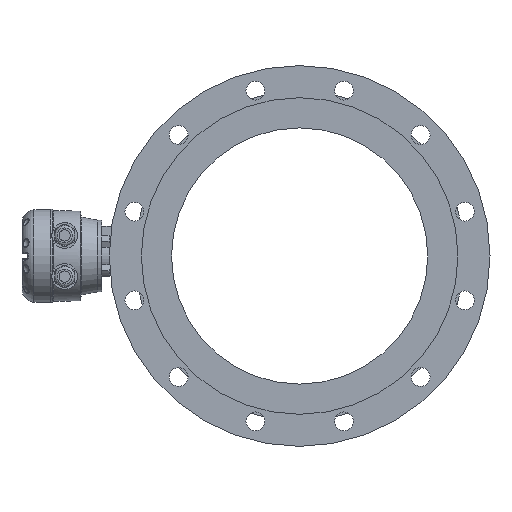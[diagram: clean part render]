
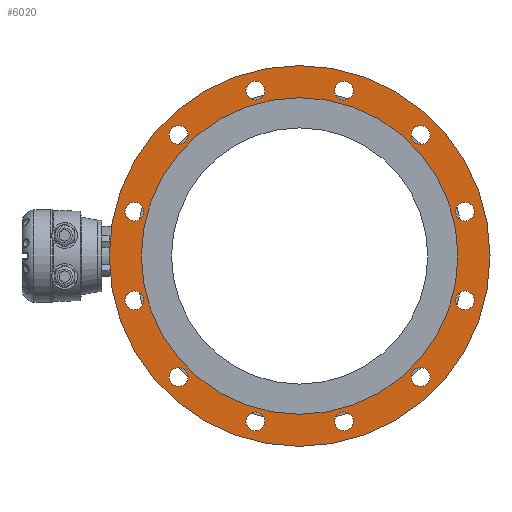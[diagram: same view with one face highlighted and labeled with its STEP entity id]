
A CAD part, left-side view. The second image highlights one B-rep face of the part: STEP entity #6020.
In plain terms, the highlighted planar face has unit normal (-1, 0, 0).
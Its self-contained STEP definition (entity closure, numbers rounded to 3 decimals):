
#39 = DIRECTION ( 'NONE',  ( 0., 0., 1. ) ) ;
#41 = DIRECTION ( 'NONE',  ( -1., 0., 0. ) ) ;
#42 = CARTESIAN_POINT ( 'NONE',  ( -238.805, -366.438, 130.879 ) ) ;
#1786 = EDGE_CURVE ( 'NONE', #5585, #5585, #9009, .T. ) ;
#1789 = EDGE_CURVE ( 'NONE', #5587, #5587, #9015, .T. ) ;
#1796 = EDGE_CURVE ( 'NONE', #5591, #5591, #9022, .T. ) ;
#1797 = EDGE_CURVE ( 'NONE', #5593, #5593, #9024, .T. ) ;
#1805 = EDGE_CURVE ( 'NONE', #5599, #5599, #9036, .T. ) ;
#1819 = EDGE_CURVE ( 'NONE', #5607, #5607, #9057, .T. ) ;
#1821 = EDGE_CURVE ( 'NONE', #5609, #5609, #9061, .T. ) ;
#1835 = EDGE_CURVE ( 'NONE', #5615, #5615, #9087, .T. ) ;
#1838 = EDGE_CURVE ( 'NONE', #5617, #5617, #9092, .T. ) ;
#1855 = EDGE_CURVE ( 'NONE', #5623, #5623, #9122, .T. ) ;
#1857 = EDGE_CURVE ( 'NONE', #5625, #5625, #9125, .T. ) ;
#1869 = EDGE_CURVE ( 'NONE', #5633, #5633, #9146, .T. ) ;
#1886 = EDGE_CURVE ( 'NONE', #5643, #5643, #9174, .T. ) ;
#1918 = EDGE_CURVE ( 'NONE', #5691, #5691, #9206, .T. ) ;
#1966 = AXIS2_PLACEMENT_3D ( 'NONE', #6627, #6620, #6619 ) ;
#1973 = AXIS2_PLACEMENT_3D ( 'NONE', #6614, #6613, #6612 ) ;
#1978 = AXIS2_PLACEMENT_3D ( 'NONE', #6601, #6591, #6590 ) ;
#1979 = AXIS2_PLACEMENT_3D ( 'NONE', #6595, #6589, #6588 ) ;
#1980 = AXIS2_PLACEMENT_3D ( 'NONE', #6572, #6569, #6568 ) ;
#1985 = AXIS2_PLACEMENT_3D ( 'NONE', #6516, #6515, #6514 ) ;
#1986 = AXIS2_PLACEMENT_3D ( 'NONE', #6532, #6520, #6519 ) ;
#1988 = AXIS2_PLACEMENT_3D ( 'NONE', #6366, #6364, #6363 ) ;
#1990 = AXIS2_PLACEMENT_3D ( 'NONE', #6354, #6347, #6346 ) ;
#1992 = AXIS2_PLACEMENT_3D ( 'NONE', #2540, #2524, #2523 ) ;
#1993 = AXIS2_PLACEMENT_3D ( 'NONE', #2518, #2517, #2516 ) ;
#1994 = AXIS2_PLACEMENT_3D ( 'NONE', #42, #41, #39 ) ;
#2002 = AXIS2_PLACEMENT_3D ( 'NONE', #9927, #9928, #9929 ) ;
#2004 = AXIS2_PLACEMENT_3D ( 'NONE', #10042, #10044, #10045 ) ;
#2115 = AXIS2_PLACEMENT_3D ( 'NONE', #11032, #11034, #11036 ) ;
#2516 = DIRECTION ( 'NONE',  ( 0., 0., 1. ) ) ;
#2517 = DIRECTION ( 'NONE',  ( -1., 0., 0. ) ) ;
#2518 = CARTESIAN_POINT ( 'NONE',  ( -238.805, -276.781, 182.642 ) ) ;
#2523 = DIRECTION ( 'NONE',  ( 0., 0., 1. ) ) ;
#2524 = DIRECTION ( 'NONE',  ( -1., 0., 0. ) ) ;
#2540 = CARTESIAN_POINT ( 'NONE',  ( -238.805, -83.595, -151.964 ) ) ;
#5585 = VERTEX_POINT ( 'NONE', #5586 ) ;
#5586 = CARTESIAN_POINT ( 'NONE',  ( -238.805, -31.832, 52.221 ) ) ;
#5587 = VERTEX_POINT ( 'NONE', #5588 ) ;
#5588 = CARTESIAN_POINT ( 'NONE',  ( -238.805, -225.017, -233.043 ) ) ;
#5591 = VERTEX_POINT ( 'NONE', #5592 ) ;
#5592 = CARTESIAN_POINT ( 'NONE',  ( -238.805, -276.781, -192.728 ) ) ;
#5593 = VERTEX_POINT ( 'NONE', #5594 ) ;
#5594 = CARTESIAN_POINT ( 'NONE',  ( -238.805, -418.202, 52.221 ) ) ;
#5599 = VERTEX_POINT ( 'NONE', #5600 ) ;
#5600 = CARTESIAN_POINT ( 'NONE',  ( -238.805, -173.253, 193.642 ) ) ;
#5607 = VERTEX_POINT ( 'NONE', #5608 ) ;
#5608 = CARTESIAN_POINT ( 'NONE',  ( -238.805, -366.438, -140.964 ) ) ;
#5609 = VERTEX_POINT ( 'NONE', #5610 ) ;
#5610 = CARTESIAN_POINT ( 'NONE',  ( -238.805, -83.595, 141.879 ) ) ;
#5615 = VERTEX_POINT ( 'NONE', #5616 ) ;
#5616 = CARTESIAN_POINT ( 'NONE',  ( -238.805, -418.202, -51.307 ) ) ;
#5617 = VERTEX_POINT ( 'NONE', #5618 ) ;
#5618 = CARTESIAN_POINT ( 'NONE',  ( -238.805, -173.253, -192.728 ) ) ;
#5623 = VERTEX_POINT ( 'NONE', #5624 ) ;
#5624 = CARTESIAN_POINT ( 'NONE',  ( -238.805, -83.595, -140.964 ) ) ;
#5625 = VERTEX_POINT ( 'NONE', #5626 ) ;
#5626 = CARTESIAN_POINT ( 'NONE',  ( -238.805, -276.781, 193.642 ) ) ;
#5633 = VERTEX_POINT ( 'NONE', #5634 ) ;
#5634 = CARTESIAN_POINT ( 'NONE',  ( -238.805, -366.438, 141.879 ) ) ;
#5643 = VERTEX_POINT ( 'NONE', #5644 ) ;
#5644 = CARTESIAN_POINT ( 'NONE',  ( -238.805, -31.832, -51.307 ) ) ;
#5691 = VERTEX_POINT ( 'NONE', #5692 ) ;
#5692 = CARTESIAN_POINT ( 'NONE',  ( -238.805, -225.017, -195.543 ) ) ;
#6020 = ADVANCED_FACE ( 'NONE', ( #9525, #9531, #9533, #9535, #9529, #9524, #9532, #9534, #9536, #9530, #9537, #9538, #9539, #9540 ), #11024, .T. ) ;
#6346 = DIRECTION ( 'NONE',  ( 0., 0., 1. ) ) ;
#6347 = DIRECTION ( 'NONE',  ( -1., 0., 0. ) ) ;
#6354 = CARTESIAN_POINT ( 'NONE',  ( -238.805, -173.253, -203.728 ) ) ;
#6363 = DIRECTION ( 'NONE',  ( 0., 0., 1. ) ) ;
#6364 = DIRECTION ( 'NONE',  ( -1., 0., 0. ) ) ;
#6366 = CARTESIAN_POINT ( 'NONE',  ( -238.805, -418.202, -62.307 ) ) ;
#6514 = DIRECTION ( 'NONE',  ( 0., 0., 1. ) ) ;
#6515 = DIRECTION ( 'NONE',  ( -1., 0., 0. ) ) ;
#6516 = CARTESIAN_POINT ( 'NONE',  ( -238.805, -83.595, 130.879 ) ) ;
#6519 = DIRECTION ( 'NONE',  ( 0., 0., 1. ) ) ;
#6520 = DIRECTION ( 'NONE',  ( -1., 0., 0. ) ) ;
#6532 = CARTESIAN_POINT ( 'NONE',  ( -238.805, -366.438, -151.964 ) ) ;
#6568 = DIRECTION ( 'NONE',  ( 0., 0., 1. ) ) ;
#6569 = DIRECTION ( 'NONE',  ( -1., 0., 0. ) ) ;
#6572 = CARTESIAN_POINT ( 'NONE',  ( -238.805, -173.253, 182.642 ) ) ;
#6588 = DIRECTION ( 'NONE',  ( 0., 0., 1. ) ) ;
#6589 = DIRECTION ( 'NONE',  ( -1., 0., 0. ) ) ;
#6590 = DIRECTION ( 'NONE',  ( 0., 0., 1. ) ) ;
#6591 = DIRECTION ( 'NONE',  ( -1., 0., 0. ) ) ;
#6595 = CARTESIAN_POINT ( 'NONE',  ( -238.805, -418.202, 41.221 ) ) ;
#6601 = CARTESIAN_POINT ( 'NONE',  ( -238.805, -276.781, -203.728 ) ) ;
#6612 = DIRECTION ( 'NONE',  ( 0., 0., -1. ) ) ;
#6613 = DIRECTION ( 'NONE',  ( 1., 0., 0. ) ) ;
#6614 = CARTESIAN_POINT ( 'NONE',  ( -238.805, -225.017, -10.543 ) ) ;
#6619 = DIRECTION ( 'NONE',  ( 0., 0., 1. ) ) ;
#6620 = DIRECTION ( 'NONE',  ( -1., 0., 0. ) ) ;
#6627 = CARTESIAN_POINT ( 'NONE',  ( -238.805, -31.832, 41.221 ) ) ;
#8517 = EDGE_LOOP ( 'NONE', ( #11048 ) ) ;
#9009 = CIRCLE ( 'NONE', #1966, 11. ) ;
#9015 = CIRCLE ( 'NONE', #1973, 222.5 ) ;
#9022 = CIRCLE ( 'NONE', #1978, 11. ) ;
#9024 = CIRCLE ( 'NONE', #1979, 11. ) ;
#9036 = CIRCLE ( 'NONE', #1980, 11. ) ;
#9057 = CIRCLE ( 'NONE', #1986, 11. ) ;
#9061 = CIRCLE ( 'NONE', #1985, 11. ) ;
#9087 = CIRCLE ( 'NONE', #1988, 11. ) ;
#9092 = CIRCLE ( 'NONE', #1990, 11. ) ;
#9122 = CIRCLE ( 'NONE', #1992, 11. ) ;
#9125 = CIRCLE ( 'NONE', #1993, 11. ) ;
#9146 = CIRCLE ( 'NONE', #1994, 11. ) ;
#9174 = CIRCLE ( 'NONE', #2002, 11. ) ;
#9206 = CIRCLE ( 'NONE', #2004, 185. ) ;
#9524 = FACE_BOUND ( 'NONE', #12512, .T. ) ;
#9525 = FACE_BOUND ( 'NONE', #12511, .T. ) ;
#9529 = FACE_BOUND ( 'NONE', #12514, .T. ) ;
#9530 = FACE_BOUND ( 'NONE', #12527, .T. ) ;
#9531 = FACE_BOUND ( 'NONE', #12516, .T. ) ;
#9532 = FACE_BOUND ( 'NONE', #12513, .T. ) ;
#9533 = FACE_BOUND ( 'NONE', #12517, .T. ) ;
#9534 = FACE_BOUND ( 'NONE', #12523, .T. ) ;
#9535 = FACE_BOUND ( 'NONE', #12526, .T. ) ;
#9536 = FACE_BOUND ( 'NONE', #12538, .T. ) ;
#9537 = FACE_BOUND ( 'NONE', #12528, .T. ) ;
#9538 = FACE_BOUND ( 'NONE', #12529, .T. ) ;
#9539 = FACE_OUTER_BOUND ( 'NONE', #8517, .T. ) ;
#9540 = FACE_BOUND ( 'NONE', #12525, .T. ) ;
#9927 = CARTESIAN_POINT ( 'NONE',  ( -238.805, -31.832, -62.307 ) ) ;
#9928 = DIRECTION ( 'NONE',  ( -1., 0., 0. ) ) ;
#9929 = DIRECTION ( 'NONE',  ( 0., 0., 1. ) ) ;
#10042 = CARTESIAN_POINT ( 'NONE',  ( -238.805, -225.017, -10.543 ) ) ;
#10044 = DIRECTION ( 'NONE',  ( 1., 0., 0. ) ) ;
#10045 = DIRECTION ( 'NONE',  ( 0., 0., -1. ) ) ;
#11024 = PLANE ( 'NONE',  #2115 ) ;
#11026 = ORIENTED_EDGE ( 'NONE', *, *, #1786, .F. ) ;
#11027 = ORIENTED_EDGE ( 'NONE', *, *, #1821, .F. ) ;
#11029 = ORIENTED_EDGE ( 'NONE', *, *, #1805, .F. ) ;
#11031 = ORIENTED_EDGE ( 'NONE', *, *, #1857, .F. ) ;
#11032 = CARTESIAN_POINT ( 'NONE',  ( -238.805, -225.017, -10.543 ) ) ;
#11033 = ORIENTED_EDGE ( 'NONE', *, *, #1869, .F. ) ;
#11035 = ORIENTED_EDGE ( 'NONE', *, *, #1797, .F. ) ;
#11034 = DIRECTION ( 'NONE',  ( -1., 0., 0. ) ) ;
#11036 = DIRECTION ( 'NONE',  ( 0., 0., -1. ) ) ;
#11037 = ORIENTED_EDGE ( 'NONE', *, *, #1835, .F. ) ;
#11039 = ORIENTED_EDGE ( 'NONE', *, *, #1819, .F. ) ;
#11041 = ORIENTED_EDGE ( 'NONE', *, *, #1796, .F. ) ;
#11042 = ORIENTED_EDGE ( 'NONE', *, *, #1838, .F. ) ;
#11045 = ORIENTED_EDGE ( 'NONE', *, *, #1855, .F. ) ;
#11047 = ORIENTED_EDGE ( 'NONE', *, *, #1886, .F. ) ;
#11048 = ORIENTED_EDGE ( 'NONE', *, *, #1789, .F. ) ;
#11050 = ORIENTED_EDGE ( 'NONE', *, *, #1918, .T. ) ;
#12511 = EDGE_LOOP ( 'NONE', ( #11026 ) ) ;
#12512 = EDGE_LOOP ( 'NONE', ( #11035 ) ) ;
#12513 = EDGE_LOOP ( 'NONE', ( #11037 ) ) ;
#12514 = EDGE_LOOP ( 'NONE', ( #11033 ) ) ;
#12516 = EDGE_LOOP ( 'NONE', ( #11027 ) ) ;
#12517 = EDGE_LOOP ( 'NONE', ( #11029 ) ) ;
#12523 = EDGE_LOOP ( 'NONE', ( #11039 ) ) ;
#12525 = EDGE_LOOP ( 'NONE', ( #11050 ) ) ;
#12526 = EDGE_LOOP ( 'NONE', ( #11031 ) ) ;
#12527 = EDGE_LOOP ( 'NONE', ( #11042 ) ) ;
#12528 = EDGE_LOOP ( 'NONE', ( #11045 ) ) ;
#12529 = EDGE_LOOP ( 'NONE', ( #11047 ) ) ;
#12538 = EDGE_LOOP ( 'NONE', ( #11041 ) ) ;
